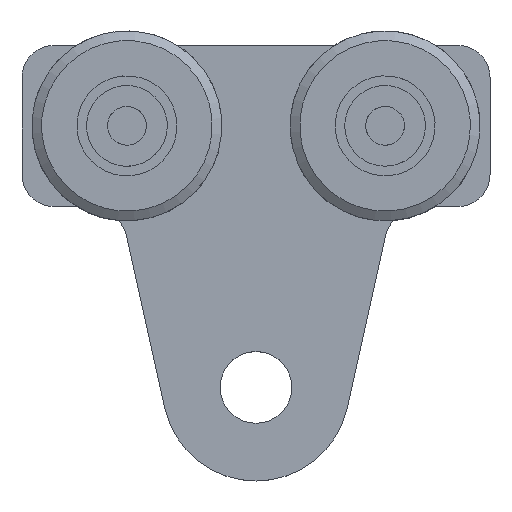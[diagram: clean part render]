
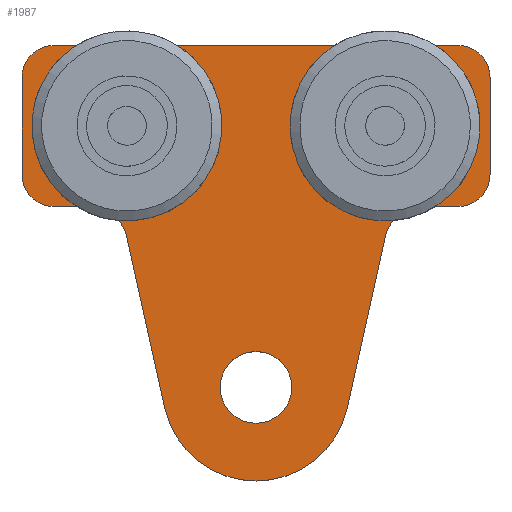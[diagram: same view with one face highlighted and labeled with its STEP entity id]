
A CAD part, top view. The second image highlights one B-rep face of the part: STEP entity #1987.
In plain terms, the highlighted planar face has unit normal (0, 0, 1).
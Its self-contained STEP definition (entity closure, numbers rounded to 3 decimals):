
#200=LINE('',#2933,#310);
#205=LINE('',#2947,#315);
#208=LINE('',#2953,#318);
#211=LINE('',#2959,#321);
#215=LINE('',#2971,#325);
#218=LINE('',#2976,#328);
#220=LINE('',#2981,#330);
#224=LINE('',#2989,#334);
#227=LINE('',#2995,#337);
#231=LINE('',#3007,#341);
#234=LINE('',#3013,#344);
#237=LINE('',#3019,#347);
#242=LINE('',#3037,#352);
#246=LINE('',#3049,#356);
#250=LINE('',#3061,#360);
#254=LINE('',#3073,#364);
#258=LINE('',#3085,#368);
#262=LINE('',#3097,#372);
#266=LINE('',#3108,#376);
#310=VECTOR('',#2334,3.4);
#315=VECTOR('',#2347,3.4);
#318=VECTOR('',#2352,7.2);
#321=VECTOR('',#2357,3.4);
#325=VECTOR('',#2369,3.4);
#328=VECTOR('',#2374,7.2);
#330=VECTOR('',#2378,3.4);
#334=VECTOR('',#2384,7.2);
#337=VECTOR('',#2389,3.4);
#341=VECTOR('',#2401,3.4);
#344=VECTOR('',#2406,7.2);
#347=VECTOR('',#2411,3.4);
#352=VECTOR('',#2430,10.75);
#356=VECTOR('',#2442,54.158);
#360=VECTOR('',#2454,54.158);
#364=VECTOR('',#2466,10.75);
#368=VECTOR('',#2478,30.);
#372=VECTOR('',#2490,125.);
#376=VECTOR('',#2502,30.);
#440=PLANE('',#2136);
#478=FACE_BOUND('',#684,.T.);
#479=FACE_BOUND('',#685,.T.);
#480=FACE_BOUND('',#686,.T.);
#569=FACE_OUTER_BOUND('',#683,.T.);
#683=EDGE_LOOP('',(#1538,#1539,#1540,#1541,#1542,#1543,#1544,#1545,#1546,
#1547,#1548,#1549,#1550,#1551));
#684=EDGE_LOOP('',(#1552));
#685=EDGE_LOOP('',(#1553,#1554,#1555,#1556,#1557,#1558,#1559,#1560));
#686=EDGE_LOOP('',(#1561,#1562,#1563,#1564,#1565,#1566,#1567,#1568));
#820=CIRCLE('',#2081,11.1);
#822=CIRCLE('',#2085,8.95);
#824=CIRCLE('',#2091,8.95);
#826=CIRCLE('',#2099,8.95);
#828=CIRCLE('',#2105,8.95);
#830=CIRCLE('',#2108,10.);
#832=CIRCLE('',#2112,12.);
#834=CIRCLE('',#2116,29.);
#836=CIRCLE('',#2120,12.);
#838=CIRCLE('',#2124,10.);
#840=CIRCLE('',#2128,10.);
#842=CIRCLE('',#2132,10.);
#922=VERTEX_POINT('',#2926);
#924=VERTEX_POINT('',#2931);
#925=VERTEX_POINT('',#2932);
#928=VERTEX_POINT('',#2940);
#930=VERTEX_POINT('',#2946);
#932=VERTEX_POINT('',#2952);
#934=VERTEX_POINT('',#2958);
#936=VERTEX_POINT('',#2964);
#938=VERTEX_POINT('',#2970);
#940=VERTEX_POINT('',#2979);
#941=VERTEX_POINT('',#2980);
#944=VERTEX_POINT('',#2988);
#946=VERTEX_POINT('',#2994);
#948=VERTEX_POINT('',#3000);
#950=VERTEX_POINT('',#3006);
#952=VERTEX_POINT('',#3012);
#954=VERTEX_POINT('',#3018);
#956=VERTEX_POINT('',#3027);
#957=VERTEX_POINT('',#3028);
#960=VERTEX_POINT('',#3036);
#962=VERTEX_POINT('',#3042);
#964=VERTEX_POINT('',#3048);
#966=VERTEX_POINT('',#3054);
#968=VERTEX_POINT('',#3060);
#970=VERTEX_POINT('',#3066);
#972=VERTEX_POINT('',#3072);
#974=VERTEX_POINT('',#3078);
#976=VERTEX_POINT('',#3084);
#978=VERTEX_POINT('',#3090);
#980=VERTEX_POINT('',#3096);
#982=VERTEX_POINT('',#3102);
#1116=EDGE_CURVE('',#922,#922,#820,.T.);
#1118=EDGE_CURVE('',#924,#925,#200,.T.);
#1122=EDGE_CURVE('',#925,#928,#822,.T.);
#1125=EDGE_CURVE('',#928,#930,#205,.T.);
#1128=EDGE_CURVE('',#930,#932,#208,.T.);
#1131=EDGE_CURVE('',#932,#934,#211,.T.);
#1134=EDGE_CURVE('',#934,#936,#824,.T.);
#1137=EDGE_CURVE('',#936,#938,#215,.T.);
#1140=EDGE_CURVE('',#938,#924,#218,.T.);
#1142=EDGE_CURVE('',#940,#941,#220,.T.);
#1146=EDGE_CURVE('',#941,#944,#224,.T.);
#1149=EDGE_CURVE('',#944,#946,#227,.T.);
#1152=EDGE_CURVE('',#946,#948,#826,.T.);
#1155=EDGE_CURVE('',#948,#950,#231,.T.);
#1158=EDGE_CURVE('',#950,#952,#234,.T.);
#1161=EDGE_CURVE('',#952,#954,#237,.T.);
#1164=EDGE_CURVE('',#954,#940,#828,.T.);
#1166=EDGE_CURVE('',#956,#957,#830,.T.);
#1170=EDGE_CURVE('',#957,#960,#242,.T.);
#1173=EDGE_CURVE('',#960,#962,#832,.T.);
#1176=EDGE_CURVE('',#962,#964,#246,.T.);
#1179=EDGE_CURVE('',#964,#966,#834,.T.);
#1182=EDGE_CURVE('',#966,#968,#250,.T.);
#1185=EDGE_CURVE('',#968,#970,#836,.T.);
#1188=EDGE_CURVE('',#970,#972,#254,.T.);
#1191=EDGE_CURVE('',#972,#974,#838,.T.);
#1194=EDGE_CURVE('',#974,#976,#258,.T.);
#1197=EDGE_CURVE('',#976,#978,#840,.T.);
#1200=EDGE_CURVE('',#978,#980,#262,.T.);
#1203=EDGE_CURVE('',#980,#982,#842,.T.);
#1206=EDGE_CURVE('',#982,#956,#266,.T.);
#1538=ORIENTED_EDGE('',*,*,#1166,.F.);
#1539=ORIENTED_EDGE('',*,*,#1206,.F.);
#1540=ORIENTED_EDGE('',*,*,#1203,.F.);
#1541=ORIENTED_EDGE('',*,*,#1200,.F.);
#1542=ORIENTED_EDGE('',*,*,#1197,.F.);
#1543=ORIENTED_EDGE('',*,*,#1194,.F.);
#1544=ORIENTED_EDGE('',*,*,#1191,.F.);
#1545=ORIENTED_EDGE('',*,*,#1188,.F.);
#1546=ORIENTED_EDGE('',*,*,#1185,.F.);
#1547=ORIENTED_EDGE('',*,*,#1182,.F.);
#1548=ORIENTED_EDGE('',*,*,#1179,.F.);
#1549=ORIENTED_EDGE('',*,*,#1176,.F.);
#1550=ORIENTED_EDGE('',*,*,#1173,.F.);
#1551=ORIENTED_EDGE('',*,*,#1170,.F.);
#1552=ORIENTED_EDGE('',*,*,#1116,.T.);
#1553=ORIENTED_EDGE('',*,*,#1118,.T.);
#1554=ORIENTED_EDGE('',*,*,#1122,.T.);
#1555=ORIENTED_EDGE('',*,*,#1125,.T.);
#1556=ORIENTED_EDGE('',*,*,#1128,.T.);
#1557=ORIENTED_EDGE('',*,*,#1131,.T.);
#1558=ORIENTED_EDGE('',*,*,#1134,.T.);
#1559=ORIENTED_EDGE('',*,*,#1137,.T.);
#1560=ORIENTED_EDGE('',*,*,#1140,.T.);
#1561=ORIENTED_EDGE('',*,*,#1142,.T.);
#1562=ORIENTED_EDGE('',*,*,#1146,.T.);
#1563=ORIENTED_EDGE('',*,*,#1149,.T.);
#1564=ORIENTED_EDGE('',*,*,#1152,.T.);
#1565=ORIENTED_EDGE('',*,*,#1155,.T.);
#1566=ORIENTED_EDGE('',*,*,#1158,.T.);
#1567=ORIENTED_EDGE('',*,*,#1161,.T.);
#1568=ORIENTED_EDGE('',*,*,#1164,.T.);
#1987=ADVANCED_FACE('',(#569,#478,#479,#480),#440,.T.);
#2081=AXIS2_PLACEMENT_3D('',#2927,#2328,#2329);
#2085=AXIS2_PLACEMENT_3D('',#2941,#2340,#2341);
#2091=AXIS2_PLACEMENT_3D('',#2965,#2362,#2363);
#2099=AXIS2_PLACEMENT_3D('',#3001,#2394,#2395);
#2105=AXIS2_PLACEMENT_3D('',#3024,#2416,#2417);
#2108=AXIS2_PLACEMENT_3D('',#3029,#2422,#2423);
#2112=AXIS2_PLACEMENT_3D('',#3043,#2435,#2436);
#2116=AXIS2_PLACEMENT_3D('',#3055,#2447,#2448);
#2120=AXIS2_PLACEMENT_3D('',#3067,#2459,#2460);
#2124=AXIS2_PLACEMENT_3D('',#3079,#2471,#2472);
#2128=AXIS2_PLACEMENT_3D('',#3091,#2483,#2484);
#2132=AXIS2_PLACEMENT_3D('',#3103,#2495,#2496);
#2136=AXIS2_PLACEMENT_3D('',#3111,#2506,#2507);
#2328=DIRECTION('center_axis',(0.,0.,-1.));
#2329=DIRECTION('ref_axis',(1.,0.,0.));
#2334=DIRECTION('',(1.,0.,0.));
#2340=DIRECTION('center_axis',(0.,0.,-1.));
#2341=DIRECTION('ref_axis',(0.922,0.388,0.));
#2347=DIRECTION('',(1.,0.,0.));
#2352=DIRECTION('',(0.,-1.,0.));
#2357=DIRECTION('',(-1.,0.,0.));
#2362=DIRECTION('center_axis',(0.,0.,-1.));
#2363=DIRECTION('ref_axis',(-0.922,-0.388,0.));
#2369=DIRECTION('',(-1.,0.,0.));
#2374=DIRECTION('',(0.,1.,0.));
#2378=DIRECTION('',(1.,0.,0.));
#2384=DIRECTION('',(0.,-1.,0.));
#2389=DIRECTION('',(-1.,0.,0.));
#2394=DIRECTION('center_axis',(0.,0.,-1.));
#2395=DIRECTION('ref_axis',(-0.922,-0.388,0.));
#2401=DIRECTION('',(-1.,0.,0.));
#2406=DIRECTION('',(0.,1.,0.));
#2411=DIRECTION('',(1.,0.,0.));
#2416=DIRECTION('center_axis',(0.,0.,-1.));
#2417=DIRECTION('ref_axis',(0.922,0.388,0.));
#2422=DIRECTION('center_axis',(0.,0.,-1.));
#2423=DIRECTION('ref_axis',(0.,1.,0.));
#2430=DIRECTION('',(1.,0.,0.));
#2435=DIRECTION('center_axis',(0.,0.,1.));
#2436=DIRECTION('ref_axis',(0.,1.,0.));
#2442=DIRECTION('',(0.216,0.976,0.));
#2447=DIRECTION('center_axis',(0.,0.,-1.));
#2448=DIRECTION('ref_axis',(0.976,0.216,0.));
#2454=DIRECTION('',(0.216,-0.976,0.));
#2459=DIRECTION('center_axis',(0.,0.,1.));
#2460=DIRECTION('ref_axis',(0.976,0.216,0.));
#2466=DIRECTION('',(1.,0.,0.));
#2471=DIRECTION('center_axis',(0.,0.,-1.));
#2472=DIRECTION('ref_axis',(1.,0.,0.));
#2478=DIRECTION('',(0.,-1.,0.));
#2483=DIRECTION('center_axis',(0.,0.,-1.));
#2484=DIRECTION('ref_axis',(0.,-1.,0.));
#2490=DIRECTION('',(-1.,0.,0.));
#2495=DIRECTION('center_axis',(0.,0.,-1.));
#2496=DIRECTION('ref_axis',(-1.,0.,0.));
#2502=DIRECTION('',(0.,1.,0.));
#2506=DIRECTION('center_axis',(0.,0.,1.));
#2507=DIRECTION('ref_axis',(1.,0.,0.));
#2926=CARTESIAN_POINT('',(11.1,81.,10.));
#2927=CARTESIAN_POINT('Origin',(0.,81.,10.));
#2931=CARTESIAN_POINT('',(-51.65,3.6,10.));
#2932=CARTESIAN_POINT('',(-48.25,3.6,10.));
#2933=CARTESIAN_POINT('',(-25.825,3.6,10.));
#2940=CARTESIAN_POINT('',(-31.75,3.6,10.));
#2941=CARTESIAN_POINT('Origin',(-40.,0.13,10.));
#2946=CARTESIAN_POINT('',(-28.35,3.6,10.));
#2947=CARTESIAN_POINT('',(-15.875,3.6,10.));
#2952=CARTESIAN_POINT('',(-28.35,-3.6,10.));
#2953=CARTESIAN_POINT('',(-28.35,14.91,10.));
#2958=CARTESIAN_POINT('',(-31.75,-3.6,10.));
#2959=CARTESIAN_POINT('',(-14.175,-3.6,10.));
#2964=CARTESIAN_POINT('',(-48.25,-3.6,10.));
#2965=CARTESIAN_POINT('Origin',(-40.,-0.13,10.));
#2970=CARTESIAN_POINT('',(-51.65,-3.6,10.));
#2971=CARTESIAN_POINT('',(-24.125,-3.6,10.));
#2976=CARTESIAN_POINT('',(-51.65,11.31,10.));
#2979=CARTESIAN_POINT('',(48.25,3.6,10.));
#2980=CARTESIAN_POINT('',(51.65,3.6,10.));
#2981=CARTESIAN_POINT('',(24.125,3.6,10.));
#2988=CARTESIAN_POINT('',(51.65,-3.6,10.));
#2989=CARTESIAN_POINT('',(51.65,14.91,10.));
#2994=CARTESIAN_POINT('',(48.25,-3.6,10.));
#2995=CARTESIAN_POINT('',(25.825,-3.6,10.));
#3000=CARTESIAN_POINT('',(31.75,-3.6,10.));
#3001=CARTESIAN_POINT('Origin',(40.,-0.13,10.));
#3006=CARTESIAN_POINT('',(28.35,-3.6,10.));
#3007=CARTESIAN_POINT('',(15.875,-3.6,10.));
#3012=CARTESIAN_POINT('',(28.35,3.6,10.));
#3013=CARTESIAN_POINT('',(28.35,11.31,10.));
#3018=CARTESIAN_POINT('',(31.75,3.6,10.));
#3019=CARTESIAN_POINT('',(14.175,3.6,10.));
#3024=CARTESIAN_POINT('Origin',(40.,0.13,10.));
#3027=CARTESIAN_POINT('',(-72.5,15.,10.));
#3028=CARTESIAN_POINT('',(-62.5,25.,10.));
#3029=CARTESIAN_POINT('Origin',(-62.5,15.,10.));
#3036=CARTESIAN_POINT('',(-51.75,25.,10.));
#3037=CARTESIAN_POINT('',(-51.75,25.,10.));
#3042=CARTESIAN_POINT('',(-40.034,34.403,10.));
#3043=CARTESIAN_POINT('Origin',(-51.75,37.,10.));
#3048=CARTESIAN_POINT('',(-28.313,87.277,10.));
#3049=CARTESIAN_POINT('',(-28.313,87.277,10.));
#3054=CARTESIAN_POINT('',(28.313,87.277,10.));
#3055=CARTESIAN_POINT('Origin',(0.,81.,10.));
#3060=CARTESIAN_POINT('',(40.034,34.403,10.));
#3061=CARTESIAN_POINT('',(40.034,34.403,10.));
#3066=CARTESIAN_POINT('',(51.75,25.,10.));
#3067=CARTESIAN_POINT('Origin',(51.75,37.,10.));
#3072=CARTESIAN_POINT('',(62.5,25.,10.));
#3073=CARTESIAN_POINT('',(62.5,25.,10.));
#3078=CARTESIAN_POINT('',(72.5,15.,10.));
#3079=CARTESIAN_POINT('Origin',(62.5,15.,10.));
#3084=CARTESIAN_POINT('',(72.5,-15.,10.));
#3085=CARTESIAN_POINT('',(72.5,-15.,10.));
#3090=CARTESIAN_POINT('',(62.5,-25.,10.));
#3091=CARTESIAN_POINT('Origin',(62.5,-15.,10.));
#3096=CARTESIAN_POINT('',(-62.5,-25.,10.));
#3097=CARTESIAN_POINT('',(-62.5,-25.,10.));
#3102=CARTESIAN_POINT('',(-72.5,-15.,10.));
#3103=CARTESIAN_POINT('Origin',(-62.5,-15.,10.));
#3108=CARTESIAN_POINT('',(-72.5,15.,10.));
#3111=CARTESIAN_POINT('Origin',(0.,26.22,10.));
